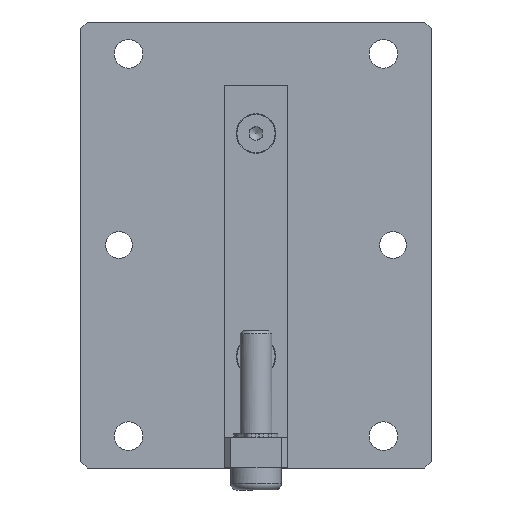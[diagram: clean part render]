
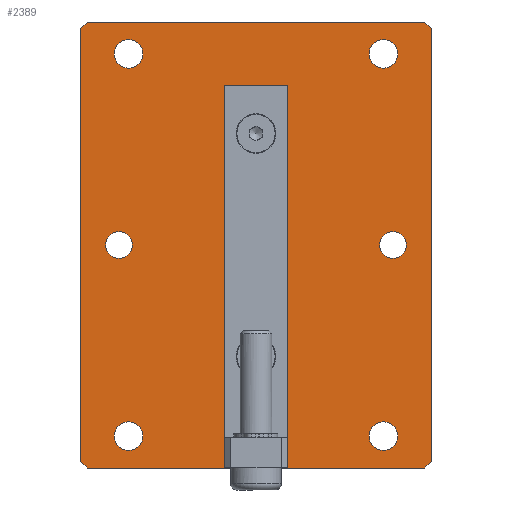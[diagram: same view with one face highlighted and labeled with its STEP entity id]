
A CAD part, left-side view. The second image highlights one B-rep face of the part: STEP entity #2389.
In plain terms, the highlighted planar face has unit normal (-1, 0, 0).
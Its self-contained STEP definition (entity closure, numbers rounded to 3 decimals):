
#1941=CARTESIAN_POINT('',(-15.,55.038,120.2));
#1942=VERTEX_POINT('',#1941);
#1949=CARTESIAN_POINT('',(-15.,55.038,0.2));
#1950=VERTEX_POINT('',#1949);
#1951=CARTESIAN_POINT('',(-15.,55.038,0.2));
#1952=DIRECTION('',(0.0,0.0,1.0));
#1953=VECTOR('',#1952,120.);
#1954=LINE('',#1951,#1953);
#1955=EDGE_CURVE('',#1950,#1942,#1954,.T.);
#2158=CARTESIAN_POINT('',(-15.,35.038,120.2));
#2159=VERTEX_POINT('',#2158);
#2166=CARTESIAN_POINT('',(-15.,55.038,120.2));
#2167=DIRECTION('',(0.0,-1.0,0.0));
#2168=VECTOR('',#2167,20.0);
#2169=LINE('',#2166,#2168);
#2170=EDGE_CURVE('',#1942,#2159,#2169,.T.);
#2207=CARTESIAN_POINT('',(-15.,35.038,0.2));
#2208=VERTEX_POINT('',#2207);
#2209=CARTESIAN_POINT('',(-15.,35.038,0.2));
#2210=DIRECTION('',(0.0,1.0,0.0));
#2211=VECTOR('',#2210,20.0);
#2212=LINE('',#2209,#2211);
#2213=EDGE_CURVE('',#2208,#1950,#2212,.T.);
#2234=CARTESIAN_POINT('',(-15.,35.038,120.2));
#2235=DIRECTION('',(0.0,0.0,-1.0));
#2236=VECTOR('',#2235,120.);
#2237=LINE('',#2234,#2236);
#2238=EDGE_CURVE('',#2159,#2208,#2237,.T.);
#2246=CARTESIAN_POINT('',(-15.0,45.038,70.0));
#2247=DIRECTION('',(1.0,0.0,0.0));
#2248=DIRECTION('',(0.0,0.0,-1.0));
#2249=AXIS2_PLACEMENT_3D('',#2246,#2247,#2248);
#2250=PLANE('',#2249);
#2251=CARTESIAN_POINT('',(-15.0,100.038,138.0));
#2252=VERTEX_POINT('',#2251);
#2253=CARTESIAN_POINT('',(-15.0,98.038,140.0));
#2254=VERTEX_POINT('',#2253);
#2255=CARTESIAN_POINT('',(-15.0,100.038,138.0));
#2256=DIRECTION('',(0.0,-0.707,0.707));
#2257=VECTOR('',#2256,2.828);
#2258=LINE('',#2255,#2257);
#2259=EDGE_CURVE('',#2252,#2254,#2258,.T.);
#2260=ORIENTED_EDGE('',*,*,#2259,.F.);
#2261=CARTESIAN_POINT('',(-15.0,100.038,2.0));
#2262=VERTEX_POINT('',#2261);
#2263=CARTESIAN_POINT('',(-15.0,100.038,2.0));
#2264=DIRECTION('',(0.0,0.0,1.0));
#2265=VECTOR('',#2264,136.0);
#2266=LINE('',#2263,#2265);
#2267=EDGE_CURVE('',#2262,#2252,#2266,.T.);
#2268=ORIENTED_EDGE('',*,*,#2267,.F.);
#2269=CARTESIAN_POINT('',(-15.0,98.038,0.));
#2270=VERTEX_POINT('',#2269);
#2271=CARTESIAN_POINT('',(-15.0,98.038,0.));
#2272=DIRECTION('',(0.0,0.707,0.707));
#2273=VECTOR('',#2272,2.828);
#2274=LINE('',#2271,#2273);
#2275=EDGE_CURVE('',#2270,#2262,#2274,.T.);
#2276=ORIENTED_EDGE('',*,*,#2275,.F.);
#2277=CARTESIAN_POINT('',(-15.0,-7.962,0.));
#2278=VERTEX_POINT('',#2277);
#2279=CARTESIAN_POINT('',(-15.0,-7.962,0.));
#2280=DIRECTION('',(0.0,1.0,0.0));
#2281=VECTOR('',#2280,106.0);
#2282=LINE('',#2279,#2281);
#2283=EDGE_CURVE('',#2278,#2270,#2282,.T.);
#2284=ORIENTED_EDGE('',*,*,#2283,.F.);
#2285=CARTESIAN_POINT('',(-15.0,-9.962,2.));
#2286=VERTEX_POINT('',#2285);
#2287=CARTESIAN_POINT('',(-15.0,-9.962,2.));
#2288=DIRECTION('',(0.0,0.707,-0.707));
#2289=VECTOR('',#2288,2.828);
#2290=LINE('',#2287,#2289);
#2291=EDGE_CURVE('',#2286,#2278,#2290,.T.);
#2292=ORIENTED_EDGE('',*,*,#2291,.F.);
#2293=CARTESIAN_POINT('',(-15.0,-9.962,138.0));
#2294=VERTEX_POINT('',#2293);
#2295=CARTESIAN_POINT('',(-15.0,-9.962,138.0));
#2296=DIRECTION('',(0.0,0.0,-1.0));
#2297=VECTOR('',#2296,136.0);
#2298=LINE('',#2295,#2297);
#2299=EDGE_CURVE('',#2294,#2286,#2298,.T.);
#2300=ORIENTED_EDGE('',*,*,#2299,.F.);
#2301=CARTESIAN_POINT('',(-15.0,-7.962,140.));
#2302=VERTEX_POINT('',#2301);
#2303=CARTESIAN_POINT('',(-15.0,-7.962,140.));
#2304=DIRECTION('',(0.0,-0.707,-0.707));
#2305=VECTOR('',#2304,2.828);
#2306=LINE('',#2303,#2305);
#2307=EDGE_CURVE('',#2302,#2294,#2306,.T.);
#2308=ORIENTED_EDGE('',*,*,#2307,.F.);
#2309=CARTESIAN_POINT('',(-15.0,98.038,140.0));
#2310=DIRECTION('',(0.0,-1.0,0.0));
#2311=VECTOR('',#2310,106.);
#2312=LINE('',#2309,#2311);
#2313=EDGE_CURVE('',#2254,#2302,#2312,.T.);
#2314=ORIENTED_EDGE('',*,*,#2313,.F.);
#2315=EDGE_LOOP('',(#2260,#2268,#2276,#2284,#2292,#2300,#2308,#2314));
#2316=FACE_OUTER_BOUND('',#2315,.T.);
#2317=ORIENTED_EDGE('',*,*,#1955,.T.);
#2318=ORIENTED_EDGE('',*,*,#2170,.T.);
#2319=ORIENTED_EDGE('',*,*,#2238,.T.);
#2320=ORIENTED_EDGE('',*,*,#2213,.T.);
#2321=EDGE_LOOP('',(#2317,#2318,#2319,#2320));
#2322=FACE_BOUND('',#2321,.T.);
#2323=CARTESIAN_POINT('',(-15.0,88.038,74.188));
#2324=VERTEX_POINT('',#2323);
#2325=CARTESIAN_POINT('',(-15.0,88.038,70.0));
#2326=DIRECTION('',(1.0,0.0,0.0));
#2327=DIRECTION('',(0.0,0.0,-1.0));
#2328=AXIS2_PLACEMENT_3D('',#2325,#2326,#2327);
#2329=CIRCLE('',#2328,4.188);
#2330=EDGE_CURVE('',#2324,#2324,#2329,.T.);
#2331=ORIENTED_EDGE('',*,*,#2330,.T.);
#2332=EDGE_LOOP('',(#2331));
#2333=FACE_BOUND('',#2332,.T.);
#2334=CARTESIAN_POINT('',(-15.0,2.038,74.188));
#2335=VERTEX_POINT('',#2334);
#2336=CARTESIAN_POINT('',(-15.0,2.038,70.0));
#2337=DIRECTION('',(1.0,0.0,0.0));
#2338=DIRECTION('',(0.0,0.0,-1.0));
#2339=AXIS2_PLACEMENT_3D('',#2336,#2337,#2338);
#2340=CIRCLE('',#2339,4.188);
#2341=EDGE_CURVE('',#2335,#2335,#2340,.T.);
#2342=ORIENTED_EDGE('',*,*,#2341,.T.);
#2343=EDGE_LOOP('',(#2342));
#2344=FACE_BOUND('',#2343,.T.);
#2345=CARTESIAN_POINT('',(-15.0,5.038,14.5));
#2346=VERTEX_POINT('',#2345);
#2347=CARTESIAN_POINT('',(-15.0,5.038,10.0));
#2348=DIRECTION('',(1.0,0.0,0.0));
#2349=DIRECTION('',(0.0,0.0,-1.0));
#2350=AXIS2_PLACEMENT_3D('',#2347,#2348,#2349);
#2351=CIRCLE('',#2350,4.5);
#2352=EDGE_CURVE('',#2346,#2346,#2351,.T.);
#2353=ORIENTED_EDGE('',*,*,#2352,.T.);
#2354=EDGE_LOOP('',(#2353));
#2355=FACE_BOUND('',#2354,.T.);
#2356=CARTESIAN_POINT('',(-15.0,85.038,134.5));
#2357=VERTEX_POINT('',#2356);
#2358=CARTESIAN_POINT('',(-15.0,85.038,130.0));
#2359=DIRECTION('',(1.0,0.0,0.0));
#2360=DIRECTION('',(0.0,0.0,-1.0));
#2361=AXIS2_PLACEMENT_3D('',#2358,#2359,#2360);
#2362=CIRCLE('',#2361,4.5);
#2363=EDGE_CURVE('',#2357,#2357,#2362,.T.);
#2364=ORIENTED_EDGE('',*,*,#2363,.T.);
#2365=EDGE_LOOP('',(#2364));
#2366=FACE_BOUND('',#2365,.T.);
#2367=CARTESIAN_POINT('',(-15.0,85.038,14.5));
#2368=VERTEX_POINT('',#2367);
#2369=CARTESIAN_POINT('',(-15.0,85.038,10.0));
#2370=DIRECTION('',(1.0,0.0,0.0));
#2371=DIRECTION('',(0.0,0.0,-1.0));
#2372=AXIS2_PLACEMENT_3D('',#2369,#2370,#2371);
#2373=CIRCLE('',#2372,4.5);
#2374=EDGE_CURVE('',#2368,#2368,#2373,.T.);
#2375=ORIENTED_EDGE('',*,*,#2374,.T.);
#2376=EDGE_LOOP('',(#2375));
#2377=FACE_BOUND('',#2376,.T.);
#2378=CARTESIAN_POINT('',(-15.0,5.038,134.5));
#2379=VERTEX_POINT('',#2378);
#2380=CARTESIAN_POINT('',(-15.0,5.038,130.0));
#2381=DIRECTION('',(1.0,0.0,0.0));
#2382=DIRECTION('',(0.0,0.0,-1.0));
#2383=AXIS2_PLACEMENT_3D('',#2380,#2381,#2382);
#2384=CIRCLE('',#2383,4.5);
#2385=EDGE_CURVE('',#2379,#2379,#2384,.T.);
#2386=ORIENTED_EDGE('',*,*,#2385,.T.);
#2387=EDGE_LOOP('',(#2386));
#2388=FACE_BOUND('',#2387,.T.);
#2389=ADVANCED_FACE('',(#2316,#2322,#2333,#2344,#2355,#2366,#2377,#2388),#2250,.F.);
